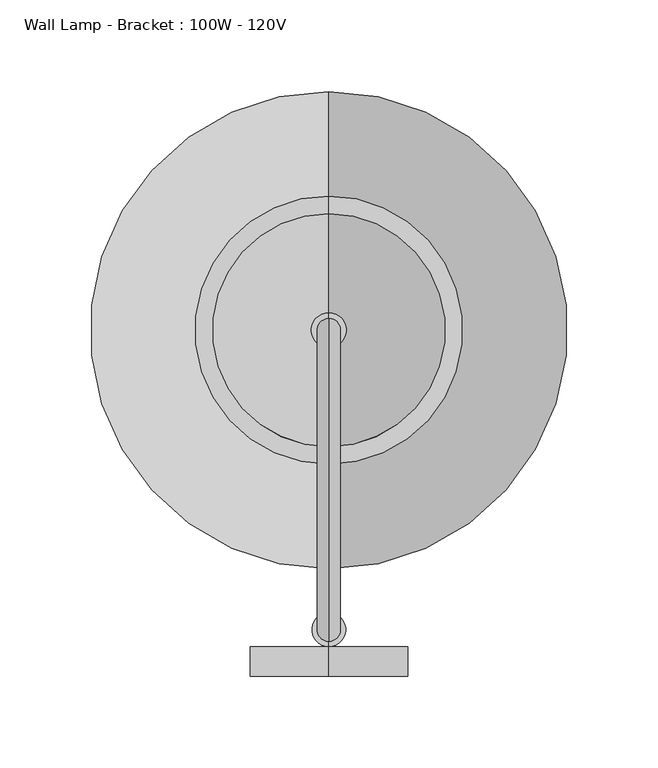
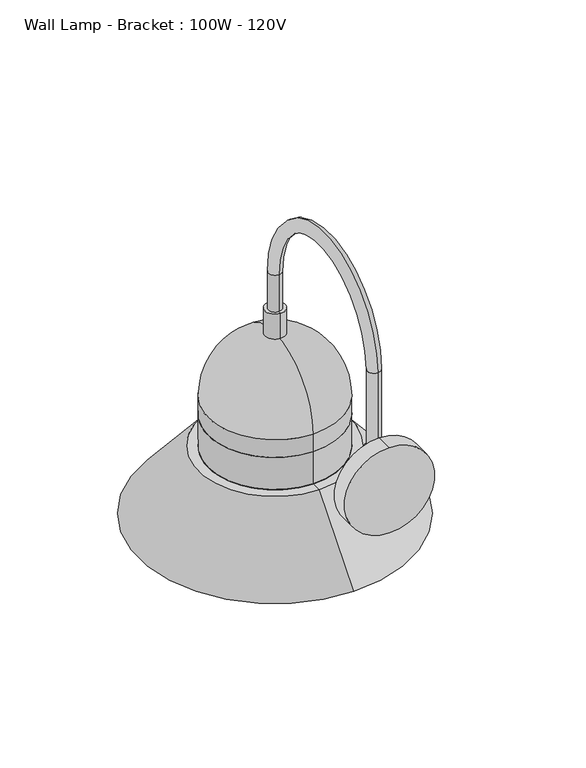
"""IFC4 building model written with IfcOpenShell, lengths in millimetres: light fixture geometry, Wall Lamp - Bracket : 100W - 120V."""

from ifc_helpers import new_model, si_unit, point, frame, frame_2d, origin, place, context, project, spatial, polyline, circle_curve, ellipse_curve, trimmed, segment, composite_curve, outline, extrude, source, transform, mapped, element, save
from ifc_brep_helpers import plane_surface, cylinder_surface, revolved_surface, advanced_brep


def wall_lamp_bracket_100w_120v_72483117(model_context):
    return source(origin(), model_context, "Body", "SolidModel", [
        advanced_brep(
        [(-36.3556627, 82.5895413, 2413.7644247), (-36.3556627, 95.2895413, 2413.7644247), (-36.3556627, 95.2895413, 2334.6251468), (-36.3556627, 82.5895413, 2334.6251468), (-36.3556627, 258.7625, 2413.7644247), (-36.3556627, 246.0625, 2413.7644247), (-36.3556627, 258.7625, 2376.6250104), (-36.3556627, 246.0625, 2376.6250104), (-36.3556627, 79.7393793, 2334.6251468), (-36.3556627, 98.1397034, 2334.6251468), (-36.3556627, 98.1397034, 2307.1079598), (-36.3556627, 79.7393793, 2307.1079598), (-36.3556627, 88.9395413, 2297.9077977)],
        [
            (0, 1, circle_curve(frame((-36.3556627, 88.9395413, 2413.7644247), z_axis=(0.0, 0.0, -1.0), x_axis=(0.0, 1.0, 0.0)), 6.35)),
            (1, 2),
            (2, 3, circle_curve(frame((-36.3556627, 88.9395413, 2334.6251468), z_axis=(0.0, 0.0, 1.0), x_axis=(0.0, 1.0, 0.0)), 6.35)),
            (3, 0),
            (1, 0, circle_curve(frame((-36.3556627, 88.9395413, 2413.7644247), z_axis=(0.0, 0.0, -1.0), x_axis=(0.0, 1.0, 0.0)), 6.35)),
            (3, 2, circle_curve(frame((-36.3556627, 88.9395413, 2334.6251468), z_axis=(0.0, 0.0, 1.0), x_axis=(0.0, 1.0, 0.0)), 6.35)),
            (0, 4, circle_curve(frame((-36.3556627, 170.6760207, 2413.7644247), z_axis=(-1.0, 0.0, 0.0), x_axis=(0.0, -1.0, 0.0)), 88.0864793)),
            (4, 5, circle_curve(frame((-36.3556627, 252.4125, 2413.7644247), z_axis=(0.0, 0.0, 1.0), x_axis=(0.0, -1.0, 0.0)), 6.35)),
            (5, 1, circle_curve(frame((-36.3556627, 170.6760207, 2413.7644247), z_axis=(1.0, 0.0, 0.0), x_axis=(0.0, -1.0, 0.0)), 75.3864793)),
            (5, 4, circle_curve(frame((-36.3556627, 252.4125, 2413.7644247), z_axis=(0.0, 0.0, 1.0), x_axis=(0.0, -1.0, 0.0)), 6.35)),
            (6, 7, circle_curve(frame((-36.3556627, 252.4125, 2376.6250104), z_axis=(0.0, 0.0, -1.0), x_axis=(0.0, -1.0, 0.0)), 6.35)),
            (7, 6, circle_curve(frame((-36.3556627, 252.4125, 2376.6250104), z_axis=(0.0, 0.0, -1.0), x_axis=(0.0, -1.0, 0.0)), 6.35)),
            (4, 6),
            (7, 5),
            (8, 9, circle_curve(frame((-36.3556627, 88.9395413, 2334.6251468), z_axis=(0.0, 0.0, 1.0), x_axis=(0.0, -1.0, 0.0)), 9.2001621)),
            (9, 2),
            (3, 8),
            (9, 8, circle_curve(frame((-36.3556627, 88.9395413, 2334.6251468), z_axis=(0.0, 0.0, 1.0), x_axis=(0.0, -1.0, 0.0)), 9.2001621)),
            (10, 11, circle_curve(frame((-36.3556627, 88.9395413, 2307.1079598), z_axis=(0.0, 0.0, -1.0), x_axis=(0.0, -1.0, 0.0)), 9.2001621)),
            (11, 12, circle_curve(frame((-36.3556627, 88.9395413, 2307.1079598), z_axis=(1.0, 0.0, 0.0), x_axis=(0.0, -1.0, 0.0)), 9.2001621)),
            (12, 10, circle_curve(frame((-36.3556627, 88.9395413, 2307.1079598), z_axis=(1.0, 0.0, 0.0), x_axis=(0.0, 1.0, 0.0)), 9.2001621)),
            (11, 10, circle_curve(frame((-36.3556627, 88.9395413, 2307.1079598), z_axis=(0.0, 0.0, -1.0), x_axis=(0.0, -1.0, 0.0)), 9.2001621)),
            (8, 11),
            (10, 9),
        ],
        [
            cylinder_surface(frame((-36.3556627, 88.9395413, 2317.75), z_axis=(0.0, 0.0, -1.0), x_axis=(0.0, 1.0, 0.0)), 6.35),
            revolved_surface(trimmed(ellipse_curve(frame((-36.3556627, 88.9395413, 2413.7644247), z_axis=(0.0, 0.0, -1.0), x_axis=(0.0, 1.0, 0.0)), 6.35, 6.35), [point((-36.3556627, 82.5895413, 2413.7644247))], [point((-36.3556627, 95.2895413, 2413.7644247))], True, "CARTESIAN"), (-36.3556627, 170.6760207, 2413.7644247), (-1.0, 0.0, 0.0)),
            revolved_surface(trimmed(ellipse_curve(frame((-36.3556627, 88.9395413, 2413.7644247), z_axis=(0.0, 0.0, -1.0), x_axis=(0.0, 1.0, 0.0)), 6.35, 6.35), [point((-36.3556627, 95.2895413, 2413.7644247))], [point((-36.3556627, 82.5895413, 2413.7644247))], True, "CARTESIAN"), (-36.3556627, 170.6760207, 2413.7644247), (-1.0, 0.0, 0.0)),
            plane_surface(frame((-36.3556627, 246.0625, 2376.6250104), z_axis=(0.0, 0.0, -1.0), x_axis=(-1.0, 0.0, 0.0))),
            cylinder_surface(frame((-36.3556627, 252.4125, 2413.7644247), z_axis=(0.0, 0.0, 1.0), x_axis=(0.0, -1.0, 0.0)), 6.35),
            plane_surface(frame((-36.3556627, 88.9395413, 2334.6251468), z_axis=(0.0, 0.0, 1.0), x_axis=(0.0, -1.0, 0.0))),
            revolved_surface(trimmed(ellipse_curve(frame((-36.3556627, 88.9395413, 2307.1079598), z_axis=(-1.0, 0.0, 0.0), x_axis=(0.0, -1.0, 0.0)), 9.2001621, 9.2001621), [point((-36.3556627, 88.9395413, 2297.9077977))], [point((-36.3556627, 79.7393793, 2307.1079598))], True, "CARTESIAN"), (-36.3556627, 88.9395413, 2472.7469008), (0.0, 0.0, 1.0)),
            cylinder_surface(frame((-36.3556627, 88.9395413, 2472.7469008), z_axis=(0.0, 0.0, 1.0), x_axis=(0.0, -1.0, 0.0)), 9.2001621),
        ],
        [
            (0, [[1, 2, 3, 4]]),
            (0, [[5, -4, 6, -2]]),
            (1, [[-1, 7, 8, 9]]),
            (2, [[-5, -9, 10, -7]]),
            (3, [[11, 12]]),
            (4, [[-8, 13, -12, 14]]),
            (4, [[-10, -14, -11, -13]]),
            (5, [[15, 16, -6, 17]]),
            (5, [[18, -17, -3, -16]]),
            (6, [[19, 20, 21]]),
            (6, [[-20, 22, -21]]),
            (7, [[-15, 23, -19, 24]]),
            (7, [[-18, -24, -22, -23]]),
        ],
    ),
        extrude(outline(composite_curve([segment(trimmed(circle_curve(frame_2d((2307.1079598, -36.3556627)), 43.0116676), [point((2264.0962922, -36.3556627))], [point((2350.1196273, -36.3556627))], False, "CARTESIAN"), True, "CONTINUOUS"), segment(trimmed(circle_curve(frame_2d((2307.1079598, -36.3556627)), 43.0116676), [point((2350.1196273, -36.3556627))], [point((2264.0962922, -36.3556627))], False, "CARTESIAN"), True, "CONTINUOUS")], self_intersect=False)), frame((0.0, 63.5, 0.0), z_axis=(0.0, 1.0, 0.0), x_axis=(0.0, 0.0, 1.0)), (0.0, 0.0, 1.0), 16.2393793),
        advanced_brep(
        [(-36.3556627, 315.9125, 2237.5701357), (-36.3556627, 188.9125, 2237.5701357), (-36.3556627, 188.9125, 2197.1), (-36.3556627, 315.9125, 2197.1), (-36.3556627, 252.4125, 2237.5701357), (-36.3556627, 252.4125, 2133.6)],
        [
            (0, 1, circle_curve(frame((-36.3556627, 252.4125, 2237.5701357), z_axis=(0.0, 0.0, -1.0), x_axis=(0.0, -1.0, 0.0)), 63.5)),
            (1, 2),
            (2, 3, circle_curve(frame((-36.3556627, 252.4125, 2197.1), z_axis=(0.0, 0.0, 1.0), x_axis=(0.0, -1.0, 0.0)), 63.5)),
            (3, 0),
            (1, 0, circle_curve(frame((-36.3556627, 252.4125, 2237.5701357), z_axis=(0.0, 0.0, -1.0), x_axis=(0.0, -1.0, 0.0)), 63.5)),
            (3, 2, circle_curve(frame((-36.3556627, 252.4125, 2197.1), z_axis=(0.0, 0.0, 1.0), x_axis=(0.0, -1.0, 0.0)), 63.5)),
            (4, 1),
            (0, 4),
            (2, 5, circle_curve(frame((-36.3556627, 252.4125, 2197.1), z_axis=(1.0, 0.0, 0.0), x_axis=(0.0, -1.0, 0.0)), 63.5)),
            (5, 3, circle_curve(frame((-36.3556627, 252.4125, 2197.1), z_axis=(1.0, 0.0, 0.0), x_axis=(0.0, 1.0, 0.0)), 63.5)),
        ],
        [
            cylinder_surface(frame((-36.3556627, 252.4125, -914.4), z_axis=(0.0, 0.0, 1.0), x_axis=(0.0, -1.0, 0.0)), 63.5),
            plane_surface(frame((-36.3556627, 252.4125, 2237.5701357), z_axis=(0.0, 0.0, 1.0), x_axis=(0.0, -1.0, 0.0))),
            revolved_surface(trimmed(ellipse_curve(frame((-36.3556627, 252.4125, 2197.1), z_axis=(-1.0, 0.0, 0.0), x_axis=(0.0, -1.0, 0.0)), 63.5, 63.5), [point((-36.3556627, 252.4125, 2133.6))], [point((-36.3556627, 188.9125, 2197.1))], True, "CARTESIAN"), (-36.3556627, 252.4125, -914.4), (0.0, 0.0, 1.0)),
        ],
        [
            (0, [[1, 2, 3, 4]]),
            (0, [[5, -4, 6, -2]]),
            (1, [[7, -1, 8]]),
            (1, [[-8, -5, -7]]),
            (2, [[-3, 9, 10]]),
            (2, [[-6, -10, -9]]),
        ],
    ),
        advanced_brep(
        [(-36.3556627, 315.9125, 2269.8272766), (-36.3556627, 188.9125, 2269.8272766), (-36.3556627, 188.9125, 2237.5701357), (-36.3556627, 315.9125, 2237.5701357), (-36.3556627, 312.7375, 2269.8272766), (-36.3556627, 192.0875, 2269.8272766), (-36.3556627, 312.7375, 2234.3951357), (-36.3556627, 192.0875, 2234.3951357), (-36.3556627, 324.1669546, 2234.3951357), (-36.3556627, 180.6580454, 2234.3951357), (-36.3556627, 378.447628, 2169.5241129), (-36.3556627, 126.377372, 2169.5241129), (-36.3556627, 382.5875, 2169.5241129), (-36.3556627, 122.2375, 2169.5241129), (-36.3556627, 325.6501529, 2237.5701357), (-36.3556627, 179.1748471, 2237.5701357)],
        [
            (0, 1, circle_curve(frame((-36.3556627, 252.4125, 2269.8272766), z_axis=(0.0, 0.0, -1.0), x_axis=(0.0, -1.0, 0.0)), 63.5)),
            (1, 2),
            (2, 3, circle_curve(frame((-36.3556627, 252.4125, 2237.5701357), z_axis=(0.0, 0.0, 1.0), x_axis=(0.0, -1.0, 0.0)), 63.5)),
            (3, 0),
            (1, 0, circle_curve(frame((-36.3556627, 252.4125, 2269.8272766), z_axis=(0.0, 0.0, -1.0), x_axis=(0.0, -1.0, 0.0)), 63.5)),
            (3, 2, circle_curve(frame((-36.3556627, 252.4125, 2237.5701357), z_axis=(0.0, 0.0, 1.0), x_axis=(0.0, -1.0, 0.0)), 63.5)),
            (4, 5, circle_curve(frame((-36.3556627, 252.4125, 2269.8272766), z_axis=(0.0, 0.0, -1.0), x_axis=(0.0, -1.0, 0.0)), 60.325)),
            (5, 1),
            (0, 4),
            (5, 4, circle_curve(frame((-36.3556627, 252.4125, 2269.8272766), z_axis=(0.0, 0.0, -1.0), x_axis=(0.0, -1.0, 0.0)), 60.325)),
            (6, 7, circle_curve(frame((-36.3556627, 252.4125, 2234.3951357), z_axis=(0.0, 0.0, -1.0), x_axis=(0.0, -1.0, 0.0)), 60.325)),
            (7, 5),
            (4, 6),
            (7, 6, circle_curve(frame((-36.3556627, 252.4125, 2234.3951357), z_axis=(0.0, 0.0, -1.0), x_axis=(0.0, -1.0, 0.0)), 60.325)),
            (8, 9, circle_curve(frame((-36.3556627, 252.4125, 2234.3951357), z_axis=(0.0, 0.0, -1.0), x_axis=(0.0, -1.0, 0.0)), 71.7544546)),
            (9, 7),
            (6, 8),
            (9, 8, circle_curve(frame((-36.3556627, 252.4125, 2234.3951357), z_axis=(0.0, 0.0, -1.0), x_axis=(0.0, -1.0, 0.0)), 71.7544546)),
            (10, 11, circle_curve(frame((-36.3556627, 252.4125, 2169.5241129), z_axis=(0.0, 0.0, -1.0), x_axis=(0.0, -1.0, 0.0)), 126.035128)),
            (11, 9),
            (8, 10),
            (11, 10, circle_curve(frame((-36.3556627, 252.4125, 2169.5241129), z_axis=(0.0, 0.0, -1.0), x_axis=(0.0, -1.0, 0.0)), 126.035128)),
            (12, 13, circle_curve(frame((-36.3556627, 252.4125, 2169.5241129), z_axis=(0.0, 0.0, -1.0), x_axis=(0.0, -1.0, 0.0)), 130.175)),
            (13, 11),
            (10, 12),
            (13, 12, circle_curve(frame((-36.3556627, 252.4125, 2169.5241129), z_axis=(0.0, 0.0, -1.0), x_axis=(0.0, -1.0, 0.0)), 130.175)),
            (14, 15, circle_curve(frame((-36.3556627, 252.4125, 2237.5701357), z_axis=(0.0, 0.0, -1.0), x_axis=(0.0, -1.0, 0.0)), 73.2376529)),
            (15, 13),
            (12, 14),
            (15, 14, circle_curve(frame((-36.3556627, 252.4125, 2237.5701357), z_axis=(0.0, 0.0, -1.0), x_axis=(0.0, -1.0, 0.0)), 73.2376529)),
            (2, 15),
            (14, 3),
        ],
        [
            cylinder_surface(frame((-36.3556627, 252.4125, -914.4), z_axis=(0.0, 0.0, 1.0), x_axis=(0.0, -1.0, 0.0)), 63.5),
            plane_surface(frame((-36.3556627, 252.4125, 2269.8272766), z_axis=(0.0, 0.0, 1.0), x_axis=(0.0, -1.0, 0.0))),
            revolved_surface(polyline([(-36.3556627, 192.08749999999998, 2269.8272766), (-36.3556627, 192.08749999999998, 2234.3951357)]), (-36.3556627, 252.4125, -914.4), (0.0, 0.0, 1.0)),
            plane_surface(frame((-36.3556627, 252.4125, 2234.3951357), z_axis=(0.0, 0.0, -1.0), x_axis=(0.0, -1.0, 0.0))),
            revolved_surface(polyline([(-36.3556627, 180.6580454, 2234.3951357), (-36.3556627, 126.377372, 2169.5241129)]), (-36.3556627, 252.4125, -914.4), (0.0, 0.0, 1.0)),
            plane_surface(frame((-36.3556627, 252.4125, 2169.5241129), z_axis=(0.0, 0.0, -1.0), x_axis=(0.0, -1.0, 0.0))),
            revolved_surface(polyline([(-36.3556627, 122.2375, 2169.5241129), (-36.3556627, 179.1748471, 2237.5701357)]), (-36.3556627, 252.4125, -914.4), (0.0, 0.0, 1.0)),
            plane_surface(frame((-36.3556627, 252.4125, 2237.5701357), z_axis=(0.0, 0.0, 1.0), x_axis=(0.0, -1.0, 0.0))),
        ],
        [
            (0, [[1, 2, 3, 4]]),
            (0, [[5, -4, 6, -2]]),
            (1, [[7, 8, -1, 9]]),
            (1, [[10, -9, -5, -8]]),
            (2, [[11, 12, -7, 13]]),
            (2, [[14, -13, -10, -12]]),
            (3, [[15, 16, -11, 17]]),
            (3, [[18, -17, -14, -16]]),
            (4, [[19, 20, -15, 21]]),
            (4, [[22, -21, -18, -20]]),
            (5, [[23, 24, -19, 25]]),
            (5, [[26, -25, -22, -24]]),
            (6, [[27, 28, -23, 29]]),
            (6, [[30, -29, -26, -28]]),
            (7, [[-3, 31, -27, 32]]),
            (7, [[-6, -32, -30, -31]]),
        ],
    ),
        advanced_brep(
        [(-36.3556627, 315.9125, 2287.7818991), (-36.3556627, 188.9125, 2287.7818991), (-36.3556627, 188.9125, 2269.8272766), (-36.3556627, 315.9125, 2269.8272766), (-36.3556627, 252.4125, 2351.2818991), (-36.3556627, 252.4125, 2269.8272766)],
        [
            (0, 1, circle_curve(frame((-36.3556627, 252.4125, 2287.7818991), z_axis=(0.0, 0.0, -1.0), x_axis=(0.0, -1.0, 0.0)), 63.5)),
            (1, 2),
            (2, 3, circle_curve(frame((-36.3556627, 252.4125, 2269.8272766), z_axis=(0.0, 0.0, 1.0), x_axis=(0.0, -1.0, 0.0)), 63.5)),
            (3, 0),
            (1, 0, circle_curve(frame((-36.3556627, 252.4125, 2287.7818991), z_axis=(0.0, 0.0, -1.0), x_axis=(0.0, -1.0, 0.0)), 63.5)),
            (3, 2, circle_curve(frame((-36.3556627, 252.4125, 2269.8272766), z_axis=(0.0, 0.0, 1.0), x_axis=(0.0, -1.0, 0.0)), 63.5)),
            (4, 1, circle_curve(frame((-36.3556627, 252.4125, 2287.7818991), z_axis=(1.0, 0.0, 0.0), x_axis=(0.0, -1.0, 0.0)), 63.5)),
            (0, 4, circle_curve(frame((-36.3556627, 252.4125, 2287.7818991), z_axis=(1.0, 0.0, 0.0), x_axis=(0.0, 1.0, 0.0)), 63.5)),
            (2, 5),
            (5, 3),
        ],
        [
            cylinder_surface(frame((-36.3556627, 252.4125, -914.4), z_axis=(0.0, 0.0, 1.0), x_axis=(0.0, -1.0, 0.0)), 63.5),
            revolved_surface(trimmed(ellipse_curve(frame((-36.3556627, 252.4125, 2287.7818991), z_axis=(-1.0, 0.0, 0.0), x_axis=(0.0, -1.0, 0.0)), 63.5, 63.5), [point((-36.3556627, 188.9125, 2287.7818991))], [point((-36.3556627, 252.4125, 2351.2818991))], True, "CARTESIAN"), (-36.3556627, 252.4125, -914.4), (0.0, 0.0, 1.0)),
            plane_surface(frame((-36.3556627, 252.4125, 2269.8272766), z_axis=(0.0, 0.0, -1.0), x_axis=(0.0, -1.0, 0.0))),
        ],
        [
            (0, [[1, 2, 3, 4]]),
            (0, [[5, -4, 6, -2]]),
            (1, [[7, -1, 8]]),
            (1, [[-8, -5, -7]]),
            (2, [[-3, 9, 10]]),
            (2, [[-6, -10, -9]]),
        ],
    ),
        advanced_brep(
        [(-36.3556627, 261.9375, 2351.5511541), (-36.3556627, 242.8875, 2351.5511541), (-36.3556627, 252.4125, 2351.5511541), (-36.3556627, 261.9375, 2376.6250104), (-36.3556627, 242.8875, 2376.6250104), (-36.3556627, 252.4125, 2376.6250104)],
        [
            (0, 1, circle_curve(frame((-36.3556627, 252.4125, 2351.5511541), z_axis=(0.0, 0.0, -1.0), x_axis=(0.0, -1.0, 0.0)), 9.525)),
            (1, 2),
            (2, 0),
            (1, 0, circle_curve(frame((-36.3556627, 252.4125, 2351.5511541), z_axis=(0.0, 0.0, -1.0), x_axis=(0.0, -1.0, 0.0)), 9.525)),
            (3, 4, circle_curve(frame((-36.3556627, 252.4125, 2376.6250104), z_axis=(0.0, 0.0, -1.0), x_axis=(0.0, -1.0, 0.0)), 9.525)),
            (4, 1),
            (0, 3),
            (4, 3, circle_curve(frame((-36.3556627, 252.4125, 2376.6250104), z_axis=(0.0, 0.0, -1.0), x_axis=(0.0, -1.0, 0.0)), 9.525)),
            (5, 4),
            (3, 5),
        ],
        [
            plane_surface(frame((-36.3556627, 252.4125, 2351.5511541), z_axis=(0.0, 0.0, -1.0), x_axis=(0.0, -1.0, 0.0))),
            cylinder_surface(frame((-36.3556627, 252.4125, -914.4), z_axis=(0.0, 0.0, 1.0), x_axis=(0.0, -1.0, 0.0)), 9.525),
            plane_surface(frame((-36.3556627, 252.4125, 2376.6250104), z_axis=(0.0, 0.0, 1.0), x_axis=(0.0, -1.0, 0.0))),
        ],
        [
            (0, [[1, 2, 3]]),
            (0, [[4, -3, -2]]),
            (1, [[5, 6, -1, 7]]),
            (1, [[8, -7, -4, -6]]),
            (2, [[9, -5, 10]]),
            (2, [[-10, -8, -9]]),
        ],
    ),
    ])


if __name__ == "__main__":
    model = new_model("IFC4")
    model_context = context("Model", 3, world=origin())
    ifc_project = project(units=[si_unit("LENGTHUNIT", "METRE", prefix="MILLI")], contexts=[model_context])
    site = spatial("IfcSite", under=ifc_project)
    building = spatial("IfcBuilding", under=site)
    placement = place(None, origin())
    wall_lamp_bracket_100w_120v_shape = wall_lamp_bracket_100w_120v_72483117(model_context)
    element("IfcLightFixture", 1, ObjectType="Wall Lamp - Bracket : 100W - 120V", at=placement, inside=building, context=model_context, shape_type="MappedRepresentation", body=[
        mapped(wall_lamp_bracket_100w_120v_shape, transform((0.0, 0.0, 0.0), x_axis=(1.0, 0.0, 0.0), y_axis=(0.0, 1.0, 0.0), z_axis=(0.0, 0.0, 1.0))),
    ])
    save(model, "model.ifc")
